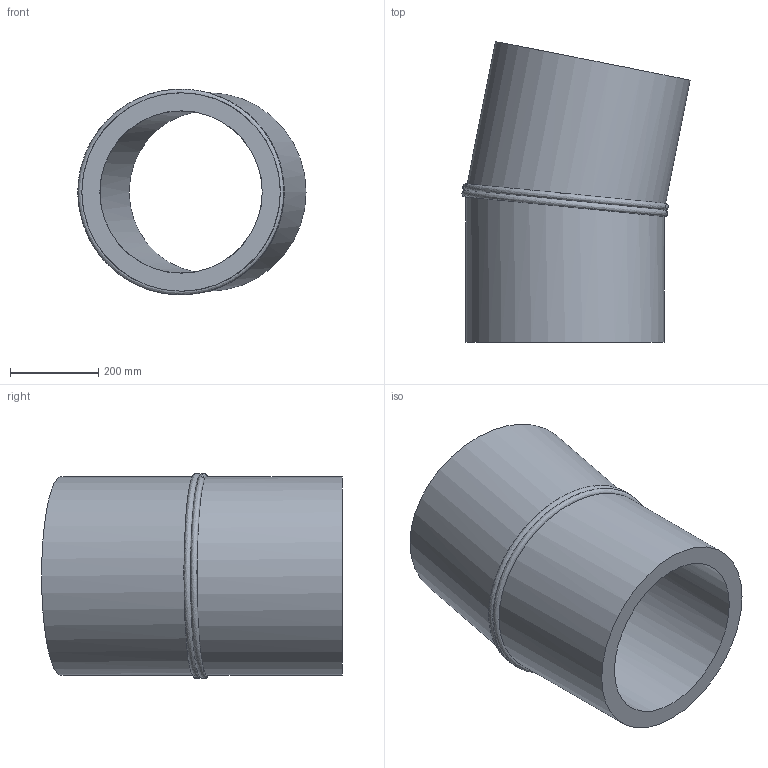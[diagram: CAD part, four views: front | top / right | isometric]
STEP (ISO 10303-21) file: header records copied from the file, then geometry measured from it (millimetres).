
FILE_DESCRIPTION(/* description */ ('Unknown'),/* implementation_level */ '2;1');
FILE_NAME(/* name */ 'Curva 11.25° a settore DE450 SDR11',/* time_stamp */ '2022-07-22T14:46:28+02:00',/* author */ ('Unknown'),/* organization */ ('Unknown'),/* preprocessor_version */ 'ST-DEVELOPER v18.102',/* originating_system */ 'Solid Edge',/* authorisation */ 'Unknown');
FILE_SCHEMA (('AUTOMOTIVE_DESIGN {1 0 10303 214 3 1 1}'));
Length unit declared in the file: millimetre
Products named in the file (2): Curva 11.25° a settore DE450 SDR11; Tubo x Gomito 11.25° DE450 SDR11
Assembly tree (2 placements, depth 2):
  Curva 11.25° a settore DE450 SDR11
    Tubo x Gomito 11.25° DE450 SDR11  x2
Bounding box: 517.48 x 682.03 x 466.45 mm (x, y, z)
Volume: 34154858.5 mm3; surface area: 1897340.4 mm2
Topology: 2 solids, 2 shells, 10 faces, 20 edges, 14 vertices
Faces by surface type: cylinder 4, plane 4, bspline 2
Full cylindrical faces by diameter (mm): 368.2 x2, 450 x2
Entity records: 770 total; most frequent: CARTESIAN_POINT 633, DIRECTION 20, ORIENTED_EDGE 10, EDGE_LOOP 10, FACE_BOUND 10, AXIS2_PLACEMENT_3D 10, EDGE_CURVE 5, VERTEX_POINT 5
